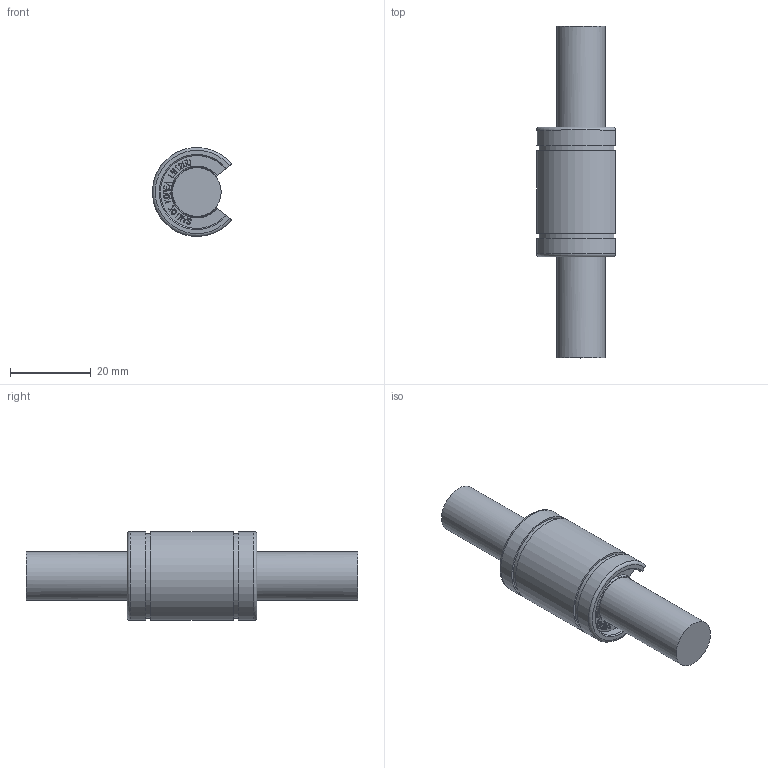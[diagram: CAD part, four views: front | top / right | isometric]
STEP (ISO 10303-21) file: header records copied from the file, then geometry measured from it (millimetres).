
FILE_DESCRIPTION(/* description */ (''),/* implementation_level */ '2;1');
FILE_NAME(/* name */ 'W:\(01) 2024년 홈페이지 CAD파일 최신화\LME_OP\IPT\LME12UUOP.stp',/* time_stamp */ '2025-01-25T10:18:52+09:00',/* author */ ('서우현'),/* organization */ (''),/* preprocessor_version */ 'ST-DEVELOPER v17.2',/* originating_system */ 'Autodesk Inventor 2019',/* authorisation */ '');
FILE_SCHEMA (('AUTOMOTIVE_DESIGN { 1 0 10303 214 3 1 1 }'));
Length unit declared in the file: millimetre
Products named in the file (1): LM5
Bounding box: 19.51 x 82 x 21.98 mm (x, y, z)
Volume: 15385.9 mm3; surface area: 5219.6 mm2
Topology: 1 solids, 1 shells, 826 faces, 2346 edges, 1564 vertices
Faces by surface type: bspline 580, plane 232, cylinder 8, cone 4, torus 2
Full cylindrical faces by diameter (mm): 12 x1
Entity records: 28282 total; most frequent: CARTESIAN_POINT 9957, ORIENTED_EDGE 4692, EDGE_CURVE 2346, DIRECTION 1712, VERTEX_POINT 1564, B_SPLINE_CURVE_WITH_KNOTS 1160, LINE 1154, VECTOR 1154
